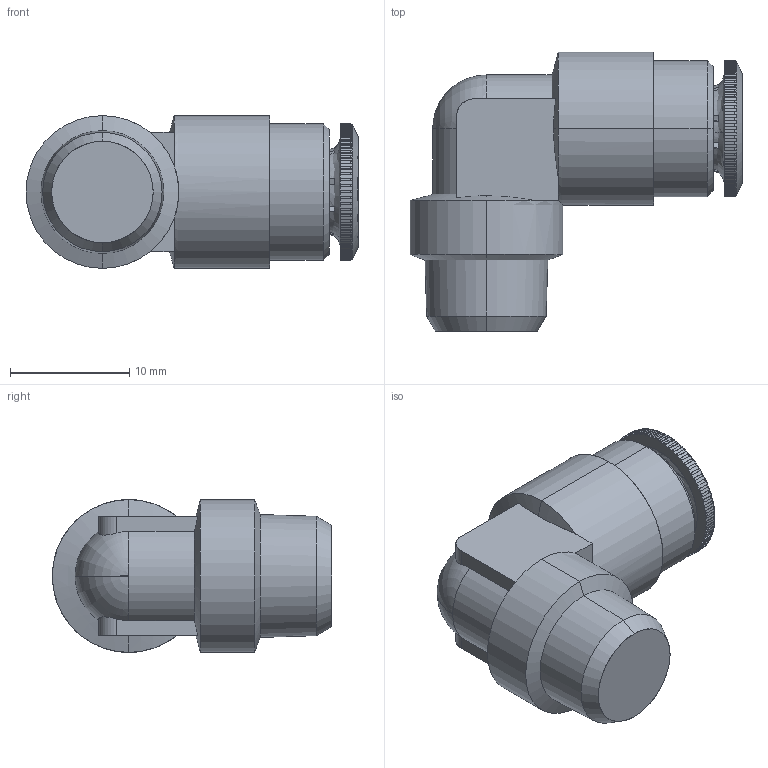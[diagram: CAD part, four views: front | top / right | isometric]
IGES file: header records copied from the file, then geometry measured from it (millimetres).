
Start section: SolidWorks IGES file using analytic representation for surfaces
Global section: file name: K:\Disegni Esecutivi\SERIE 58000\58100\58100_iges\5810000007A.IGS; native system: SolidWorks 2011; preprocessor: SolidWorks 2011; author: cad05; date: 110621.153844; units: millimetre
Bounding box: 27.81 x 23.4 x 12.8 mm (x, y, z)
Surface area: 1739.4 mm2 (no closed solid volume)
Topology: 0 solids, 0 shells, 357 faces, 2616 edges, 2614 vertices
Faces by surface type: bspline 255, revolution 102
